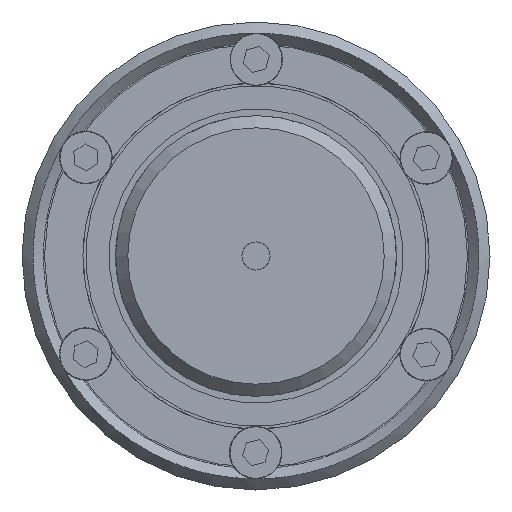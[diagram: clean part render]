
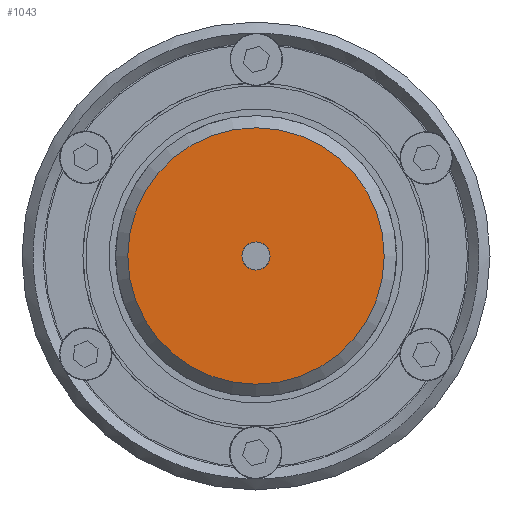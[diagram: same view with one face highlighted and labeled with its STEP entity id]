
A CAD part, left-side view. The second image highlights one B-rep face of the part: STEP entity #1043.
In plain terms, the highlighted planar face has unit normal (-1, 0, 0) as drawn and (0, 1, 0) by its records, which use the part's own axes.
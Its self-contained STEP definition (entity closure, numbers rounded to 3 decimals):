
#1043 = ADVANCED_FACE( '', ( #2054, #2055 ), #2056, .T. );
#2054 = FACE_OUTER_BOUND( '', #3313, .T. );
#2055 = FACE_BOUND( '', #3314, .T. );
#2056 = PLANE( '', #3315 );
#3313 = EDGE_LOOP( '', ( #4595 ) );
#3314 = EDGE_LOOP( '', ( #4596 ) );
#3315 = AXIS2_PLACEMENT_3D( '', #4597, #4598, #4599 );
#4595 = ORIENTED_EDGE( '', *, *, #6532, .T. );
#4596 = ORIENTED_EDGE( '', *, *, #6640, .T. );
#4597 = CARTESIAN_POINT( '', ( 0., 0., 0. ) );
#4598 = DIRECTION( '', ( 0., 1., 0. ) );
#4599 = DIRECTION( '', ( 0., 0., 1. ) );
#6532 = EDGE_CURVE( '', #7433, #7433, #7434, .T. );
#6640 = EDGE_CURVE( '', #7614, #7614, #7615, .T. );
#7433 = VERTEX_POINT( '', #8741 );
#7434 = CIRCLE( '', #8742, 13.7 );
#7614 = VERTEX_POINT( '', #8975 );
#7615 = CIRCLE( '', #8976, 1.5 );
#8741 = CARTESIAN_POINT( '', ( 0., 0., 13.7 ) );
#8742 = AXIS2_PLACEMENT_3D( '', #10562, #10563, #10564 );
#8975 = CARTESIAN_POINT( '', ( 0., 0., -1.5 ) );
#8976 = AXIS2_PLACEMENT_3D( '', #10731, #10732, #10733 );
#10562 = CARTESIAN_POINT( '', ( 0., 0., 0. ) );
#10563 = DIRECTION( '', ( 0., 1., 0. ) );
#10564 = DIRECTION( '', ( 0., 0., 1. ) );
#10731 = CARTESIAN_POINT( '', ( 0., 0., 0. ) );
#10732 = DIRECTION( '', ( 0., -1., 0. ) );
#10733 = DIRECTION( '', ( 0., 0., -1. ) );
